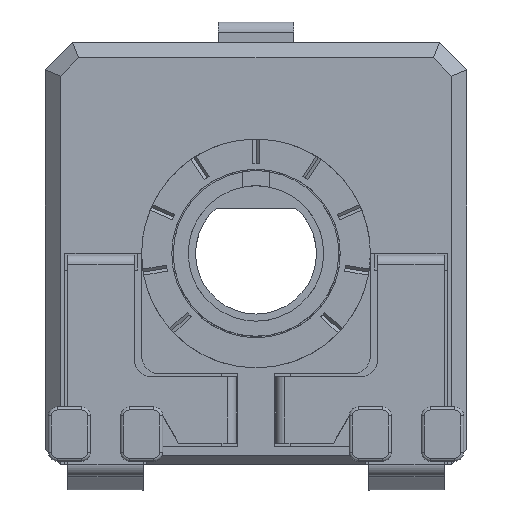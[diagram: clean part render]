
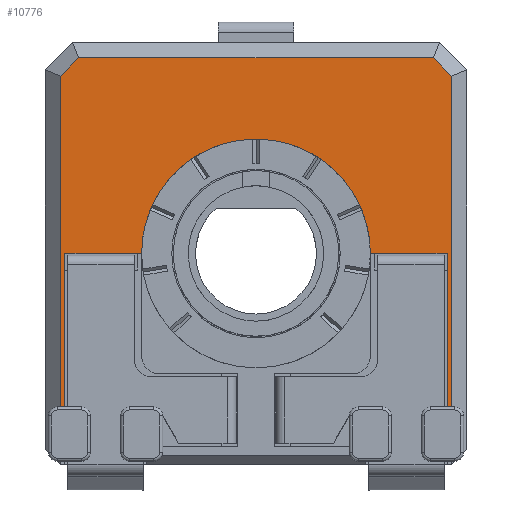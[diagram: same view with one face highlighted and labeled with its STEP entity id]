
A CAD part, top view. The second image highlights one B-rep face of the part: STEP entity #10776.
In plain terms, the highlighted planar face has unit normal (0, 0, 1).
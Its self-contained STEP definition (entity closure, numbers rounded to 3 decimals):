
#469=PLANE('',#11555);
#988=FACE_OUTER_BOUND('',#1543,.T.);
#1543=EDGE_LOOP('',(#9383,#9384,#9385,#9386,#9387,#9388,#9389,#9390,#9391,
#9392,#9393,#9394));
#1885=LINE('',#15246,#3104);
#1953=LINE('',#15499,#3172);
#2193=LINE('',#16242,#3412);
#2196=LINE('',#16247,#3415);
#2468=LINE('',#16899,#3687);
#2501=LINE('',#17026,#3720);
#2724=LINE('',#17575,#3943);
#2725=LINE('',#17578,#3944);
#2726=LINE('',#17579,#3945);
#2727=LINE('',#17582,#3946);
#2728=LINE('',#17583,#3947);
#3104=VECTOR('',#12279,10.);
#3172=VECTOR('',#12561,10.);
#3412=VECTOR('',#13087,10.);
#3415=VECTOR('',#13092,10.);
#3687=VECTOR('',#13514,10.);
#3720=VECTOR('',#13589,10.);
#3943=VECTOR('',#14110,10.);
#3944=VECTOR('',#14113,10.);
#3945=VECTOR('',#14114,10.);
#3946=VECTOR('',#14117,10.);
#3947=VECTOR('',#14118,10.);
#4308=CIRCLE('',#11556,3.8);
#4519=VERTEX_POINT('',#15047);
#4578=VERTEX_POINT('',#15245);
#4655=VERTEX_POINT('',#15496);
#4656=VERTEX_POINT('',#15498);
#4703=VERTEX_POINT('',#15652);
#4704=VERTEX_POINT('',#15654);
#4859=VERTEX_POINT('',#16238);
#4860=VERTEX_POINT('',#16240);
#5069=VERTEX_POINT('',#16895);
#5095=VERTEX_POINT('',#17025);
#5226=VERTEX_POINT('',#17577);
#5227=VERTEX_POINT('',#17581);
#5651=EDGE_CURVE('',#4578,#4519,#1885,.T.);
#5777=EDGE_CURVE('',#4656,#4655,#1953,.T.);
#6083=EDGE_CURVE('',#4860,#4859,#2193,.T.);
#6086=EDGE_CURVE('',#4859,#4655,#2196,.T.);
#6379=EDGE_CURVE('',#4578,#5069,#2468,.T.);
#6424=EDGE_CURVE('',#5069,#5095,#2501,.T.);
#6674=EDGE_CURVE('',#5095,#4860,#2724,.T.);
#6675=EDGE_CURVE('',#4519,#5226,#2725,.T.);
#6676=EDGE_CURVE('',#5226,#4704,#2726,.T.);
#6677=EDGE_CURVE('',#4704,#4703,#4308,.T.);
#6678=EDGE_CURVE('',#4703,#5227,#2727,.T.);
#6679=EDGE_CURVE('',#5227,#4656,#2728,.T.);
#9383=ORIENTED_EDGE('',*,*,#5651,.T.);
#9384=ORIENTED_EDGE('',*,*,#6675,.T.);
#9385=ORIENTED_EDGE('',*,*,#6676,.T.);
#9386=ORIENTED_EDGE('',*,*,#6677,.T.);
#9387=ORIENTED_EDGE('',*,*,#6678,.T.);
#9388=ORIENTED_EDGE('',*,*,#6679,.T.);
#9389=ORIENTED_EDGE('',*,*,#5777,.T.);
#9390=ORIENTED_EDGE('',*,*,#6086,.F.);
#9391=ORIENTED_EDGE('',*,*,#6083,.F.);
#9392=ORIENTED_EDGE('',*,*,#6674,.F.);
#9393=ORIENTED_EDGE('',*,*,#6424,.F.);
#9394=ORIENTED_EDGE('',*,*,#6379,.F.);
#10776=ADVANCED_FACE('',(#988),#469,.T.);
#11555=AXIS2_PLACEMENT_3D('',#17576,#14111,#14112);
#11556=AXIS2_PLACEMENT_3D('',#17580,#14115,#14116);
#12279=DIRECTION('',(1.,0.,0.));
#12561=DIRECTION('',(1.,0.,0.));
#13087=DIRECTION('',(0.707,-0.707,0.));
#13092=DIRECTION('',(0.,-1.,0.));
#13514=DIRECTION('',(0.,1.,0.));
#13589=DIRECTION('',(0.707,0.707,0.));
#14110=DIRECTION('',(1.,0.,0.));
#14111=DIRECTION('center_axis',(0.,0.,1.));
#14112=DIRECTION('ref_axis',(1.,0.,0.));
#14113=DIRECTION('',(0.,1.,0.));
#14114=DIRECTION('',(1.,0.,0.));
#14115=DIRECTION('center_axis',(0.,0.,-1.));
#14116=DIRECTION('ref_axis',(-1.,0.,0.));
#14117=DIRECTION('',(1.,0.,0.));
#14118=DIRECTION('',(0.,-1.,0.));
#15047=CARTESIAN_POINT('',(-13.817,-7.998,4.4));
#15245=CARTESIAN_POINT('',(-13.967,-7.998,4.4));
#15246=CARTESIAN_POINT('',(-10.217,-7.998,4.4));
#15496=CARTESIAN_POINT('',(-0.967,-7.998,4.4));
#15498=CARTESIAN_POINT('',(-1.117,-7.998,4.4));
#15499=CARTESIAN_POINT('',(-4.017,-7.998,4.4));
#15652=CARTESIAN_POINT('',(-3.667,-2.898,4.4));
#15654=CARTESIAN_POINT('',(-11.267,-2.898,4.4));
#16238=CARTESIAN_POINT('',(-0.967,2.994,4.4));
#16240=CARTESIAN_POINT('',(-1.574,3.602,4.4));
#16242=CARTESIAN_POINT('',(-1.271,3.298,4.4));
#16247=CARTESIAN_POINT('',(-0.967,0.602,4.4));
#16895=CARTESIAN_POINT('',(-13.967,2.994,4.4));
#16899=CARTESIAN_POINT('',(-13.967,-6.398,4.4));
#17025=CARTESIAN_POINT('',(-13.36,3.602,4.4));
#17026=CARTESIAN_POINT('',(-13.663,3.298,4.4));
#17575=CARTESIAN_POINT('',(-10.967,3.602,4.4));
#17576=CARTESIAN_POINT('Origin',(-7.467,-2.898,4.4));
#17577=CARTESIAN_POINT('',(-13.817,-2.898,4.4));
#17578=CARTESIAN_POINT('',(-13.817,-3.173,4.4));
#17579=CARTESIAN_POINT('',(-9.442,-2.898,4.4));
#17580=CARTESIAN_POINT('Origin',(-7.467,-2.898,4.4));
#17581=CARTESIAN_POINT('',(-1.117,-2.898,4.4));
#17582=CARTESIAN_POINT('',(-5.492,-2.898,4.4));
#17583=CARTESIAN_POINT('',(-1.117,-2.898,4.4));
